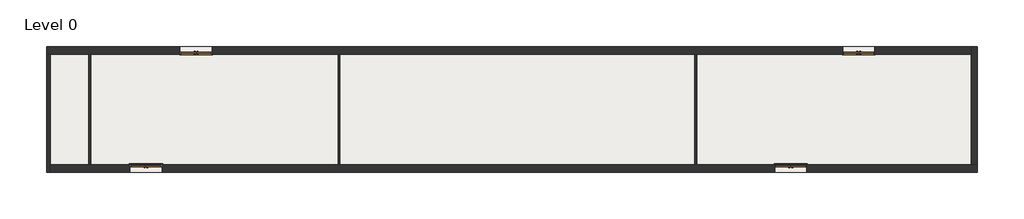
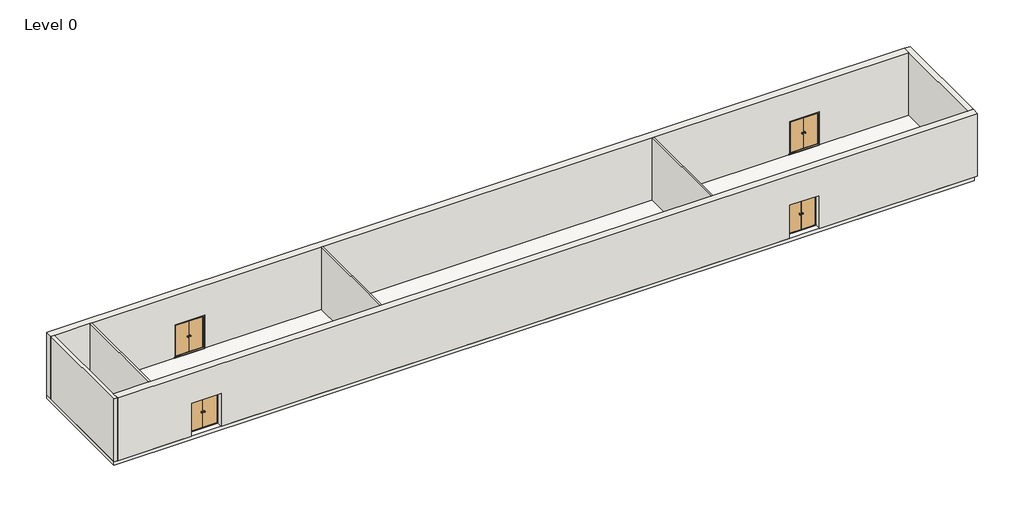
# One storey: 7 walls, 4 doors, 1 slab.
"""IFC4 building model written with IfcOpenShell, lengths in millimetres."""

from ifc_helpers import new_model, si_unit, frame, origin, origin_with_axes, place, context, project, spatial, polyline, outline, extrude, faceted_brep, transform, mapped, element, save
from components import doors_extdbl_flush_1810x2110mm_e4a6cb3f

model = new_model("IFC4")

# Units and contexts
model_context = context("Model", 3, world=origin())
ifc_project = project(units=[si_unit("LENGTHUNIT", "METRE", prefix="MILLI")], contexts=[model_context])

# Site, building, storey
site = spatial("IfcSite", under=ifc_project)
building = spatial("IfcBuilding", under=site)
storey = spatial("IfcBuildingStorey", under=building, Name="Level 0", Elevation=0.0)

# Doors
placement = place(None, origin())
doors_extdbl_flush_1810x2110mm_shape = doors_extdbl_flush_1810x2110mm_e4a6cb3f(model_context)
element("IfcDoor", 1, ObjectType="Doors_ExtDbl_Flush : 1810x2110mm", at=placement, inside=storey, context=model_context, shape_type="MappedRepresentation", body=[
    mapped(doors_extdbl_flush_1810x2110mm_shape, transform((1669.112776, -567.7844268, 0.0), x_axis=(1.0, 0.0, 0.0), y_axis=(0.0, 1.0, 0.0), z_axis=(0.0, 0.0, 1.0))),
])
element("IfcDoor", 2, ObjectType="Doors_ExtDbl_Flush : 1810x2110mm", at=placement, inside=storey, context=model_context, shape_type="MappedRepresentation", body=[
    mapped(doors_extdbl_flush_1810x2110mm_shape, transform((37745.362776, -567.7844268, 0.0), x_axis=(1.0, 0.0, 0.0), y_axis=(0.0, 1.0, 0.0), z_axis=(0.0, 0.0, 1.0))),
])
element("IfcDoor", 3, ObjectType="Doors_ExtDbl_Flush : 1810x2110mm", at=placement, inside=storey, context=model_context, shape_type="MappedRepresentation", body=[
    mapped(doors_extdbl_flush_1810x2110mm_shape, transform((41545.362776, 6032.2155732, 0.0), x_axis=(-1.0, 0.0, 0.0), y_axis=(0.0, -1.0, 0.0), z_axis=(0.0, 0.0, 1.0))),
])
element("IfcDoor", 4, ObjectType="Doors_ExtDbl_Flush : 1810x2110mm", at=placement, inside=storey, context=model_context, shape_type="MappedRepresentation", body=[
    mapped(doors_extdbl_flush_1810x2110mm_shape, transform((4481.612776, 6032.2155732, 0.0), x_axis=(-1.0, 0.0, 0.0), y_axis=(0.0, -1.0, 0.0), z_axis=(0.0, 0.0, 1.0))),
])

# Slab
element("IfcSlab", 5, ObjectType="Floor-Upper_160mmConc-CorusComFlor51", at=placement, inside=storey, context=model_context, shape_type="SweptSolid", body=[
    extrude(outline(polyline([(48002.862776, 6252.2155732), (48002.862776, -787.7844268), (-3888.387224, -787.7844268), (-3888.387224, 6252.2155732), (48002.862776, 6252.2155732)])), frame((0.0, 0.0, -211.0), z_axis=(0.0, 0.0, 1.0), x_axis=(1.0, 0.0, 0.0)), (0.0, 0.0, 1.0), 211.0),
])

# Walls
element("IfcWall", 6, ObjectType="Wall-Concrete_440blk", at=placement, inside=storey, context=model_context, shape_type="Brep", body=[
    faceted_brep([(-3888.387224, 5812.2155732, 0.0), (-3673.387224, 5812.2155732, 0.0), (-1523.387224, 5812.2155732, 0.0), (-1423.387224, 5812.2155732, 0.0), (3576.612776, 5812.2155732, 0.0), (3576.612776, 5812.2155732, 2110.0), (5386.612776, 5812.2155732, 2110.0), (5386.612776, 5812.2155732, 0.0), (12426.612776, 5812.2155732, 0.0), (12526.612776, 5812.2155732, 0.0), (32376.612776, 5812.2155732, 0.0), (32476.612776, 5812.2155732, 0.0), (40640.362776, 5812.2155732, 0.0), (40640.362776, 5812.2155732, 2110.0), (42450.362776, 5812.2155732, 2110.0), (42450.362776, 5812.2155732, 0.0), (47850.362776, 5812.2155732, 0.0), (47850.362776, 5812.2155732, 4000.0), (32476.612776, 5812.2155732, 4000.0), (32376.612776, 5812.2155732, 4000.0), (12526.612776, 5812.2155732, 4000.0), (12426.612776, 5812.2155732, 4000.0), (-1423.387224, 5812.2155732, 4000.0), (-1523.387224, 5812.2155732, 4000.0), (-3673.387224, 5812.2155732, 4000.0), (-3888.387224, 5812.2155732, 4000.0), (3576.612776, 6252.2155732, 2110.0), (3576.612776, 6252.2155732, 0.0), (-3888.387224, 6252.2155732, 0.0), (-3888.387224, 6252.2155732, 4000.0), (47850.362776, 6252.2155732, 4000.0), (47850.362776, 6252.2155732, 0.0), (42450.362776, 6252.2155732, 0.0), (42450.362776, 6252.2155732, 2110.0), (40640.362776, 6252.2155732, 2110.0), (40640.362776, 6252.2155732, 0.0), (5386.612776, 6252.2155732, 0.0), (5386.612776, 6252.2155732, 2110.0)], [[[0, 1, 2, 3, 4, 5, 6, 7, 8, 9, 10, 11, 12, 13, 14, 15, 16, 17, 18, 19, 20, 21, 22, 23, 24, 25]], [[26, 27, 28, 29, 30, 31, 32, 33, 34, 35, 36, 37]], [[32, 31, 16, 15]], [[36, 35, 12, 11, 10, 9, 8, 7]], [[28, 27, 4, 3, 2, 1, 0]], [[25, 24, 23, 22, 21, 20, 19, 18, 17, 30, 29]], [[0, 25, 29, 28]], [[17, 16, 31, 30]], [[15, 14, 33, 32]], [[13, 12, 35, 34]], [[14, 13, 34, 33]], [[7, 6, 37, 36]], [[5, 4, 27, 26]], [[6, 5, 26, 37]]]),
])
element("IfcWall", 7, ObjectType="Wall-Concrete_440blk", at=placement, inside=storey, context=model_context, shape_type="Brep", body=[
    faceted_brep([(48187.862776, -347.7844268, 0.0), (47850.362776, -347.7844268, 0.0), (38650.362776, -347.7844268, 0.0), (38650.362776, -347.7844268, 2110.0), (36840.362776, -347.7844268, 2110.0), (36840.362776, -347.7844268, 0.0), (32476.612776, -347.7844268, 0.0), (32376.612776, -347.7844268, 0.0), (12526.612776, -347.7844268, 0.0), (12426.612776, -347.7844268, 0.0), (2574.112776, -347.7844268, 0.0), (2574.112776, -347.7844268, 2110.0), (764.112776, -347.7844268, 2110.0), (764.112776, -347.7844268, 0.0), (-1423.387224, -347.7844268, 0.0), (-1523.387224, -347.7844268, 0.0), (-3673.387224, -347.7844268, 0.0), (-3673.387224, -347.7844268, 4000.0), (-1523.387224, -347.7844268, 4000.0), (-1423.387224, -347.7844268, 4000.0), (12426.612776, -347.7844268, 4000.0), (12526.612776, -347.7844268, 4000.0), (32376.612776, -347.7844268, 4000.0), (32476.612776, -347.7844268, 4000.0), (47850.362776, -347.7844268, 4000.0), (48187.862776, -347.7844268, 4000.0), (38650.362776, -787.7844268, 2110.0), (38650.362776, -787.7844268, 0.0), (48187.862776, -787.7844268, 0.0), (48187.862776, -787.7844268, 4000.0), (-3673.387224, -787.7844268, 4000.0), (-3673.387224, -787.7844268, 0.0), (764.112776, -787.7844268, 0.0), (764.112776, -787.7844268, 2110.0), (2574.112776, -787.7844268, 2110.0), (2574.112776, -787.7844268, 0.0), (36840.362776, -787.7844268, 0.0), (36840.362776, -787.7844268, 2110.0)], [[[0, 1, 2, 3, 4, 5, 6, 7, 8, 9, 10, 11, 12, 13, 14, 15, 16, 17, 18, 19, 20, 21, 22, 23, 24, 25]], [[26, 27, 28, 29, 30, 31, 32, 33, 34, 35, 36, 37]], [[32, 31, 16, 15, 14, 13]], [[36, 35, 10, 9, 8, 7, 6, 5]], [[28, 27, 2, 1, 0]], [[25, 24, 23, 22, 21, 20, 19, 18, 17, 30, 29]], [[0, 25, 29, 28]], [[17, 16, 31, 30]], [[13, 12, 33, 32]], [[11, 10, 35, 34]], [[12, 11, 34, 33]], [[5, 4, 37, 36]], [[3, 2, 27, 26]], [[4, 3, 26, 37]]]),
])
element("IfcWall", 8, ObjectType="Wall-Ext_215Bwk", at=placement, inside=storey, context=model_context, shape_type="Brep", body=[
    faceted_brep([(-3673.387224, -787.7844268, 0.0), (-3673.387224, -347.7844268, 0.0), (-3673.387224, 5812.2155732, 0.0), (-3673.387224, 5812.2155732, 4000.0), (-3673.387224, -347.7844268, 4000.0), (-3673.387224, -787.7844268, 4000.0), (-3888.387224, -787.7844268, 0.0), (-3888.387224, -787.7844268, 4000.0), (-3888.387224, 5812.2155732, 4000.0), (-3888.387224, 5812.2155732, 0.0)], [[[0, 1, 2, 3, 4, 5]], [[6, 7, 8, 9]], [[2, 1, 0, 6, 9]], [[5, 4, 3, 8, 7]], [[0, 5, 7, 6]], [[3, 2, 9, 8]]]),
])
element("IfcWall", 9, ObjectType="Wall-Ext_35Rsc-50Air-100Ins-140Blk-12P", at=placement, inside=storey, context=model_context, shape_type="Brep", body=[
    faceted_brep([(47850.362776, 6252.2155732, 0.0), (47850.362776, 5812.2155732, 0.0), (47850.362776, -347.7844268, 0.0), (47850.362776, -347.7844268, 4000.0), (47850.362776, 5812.2155732, 4000.0), (47850.362776, 6252.2155732, 4000.0), (48187.862776, 6252.2155732, 0.0), (48187.862776, 6252.2155732, 4000.0), (48187.862776, -347.7844268, 4000.0), (48187.862776, -347.7844268, 0.0)], [[[0, 1, 2, 3, 4, 5]], [[6, 7, 8, 9]], [[2, 1, 0, 6, 9]], [[5, 4, 3, 8, 7]], [[0, 5, 7, 6]], [[3, 2, 9, 8]]]),
])
element("IfcWall", 10, ObjectType="Wall-Partn_12P-75Std-12P", at=placement, inside=storey, context=model_context, shape_type="SweptSolid", body=[
    extrude(outline(polyline([(-1523.387224, -347.7844268), (-1523.387224, 5812.2155732), (-1423.387224, 5812.2155732), (-1423.387224, -347.7844268), (-1523.387224, -347.7844268)])), origin_with_axes(), (0.0, 0.0, 1.0), 4000.0),
])
element("IfcWall", 11, ObjectType="Wall-Partn_12P-75Std-12P", at=placement, inside=storey, context=model_context, shape_type="SweptSolid", body=[
    extrude(outline(polyline([(12526.612776, 5812.2155732), (12526.612776, -347.7844268), (12426.612776, -347.7844268), (12426.612776, 5812.2155732), (12526.612776, 5812.2155732)])), origin_with_axes(), (0.0, 0.0, 1.0), 4000.0),
])
element("IfcWall", 12, ObjectType="Wall-Partn_12P-75Std-12P", at=placement, inside=storey, context=model_context, shape_type="SweptSolid", body=[
    extrude(outline(polyline([(32476.612776, 5812.2155732), (32476.612776, -347.7844268), (32376.612776, -347.7844268), (32376.612776, 5812.2155732), (32476.612776, 5812.2155732)])), origin_with_axes(), (0.0, 0.0, 1.0), 4000.0),
])

save(model, "model.ifc")
